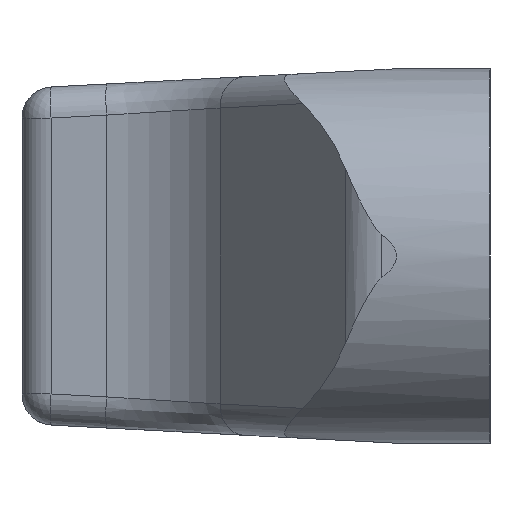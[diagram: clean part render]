
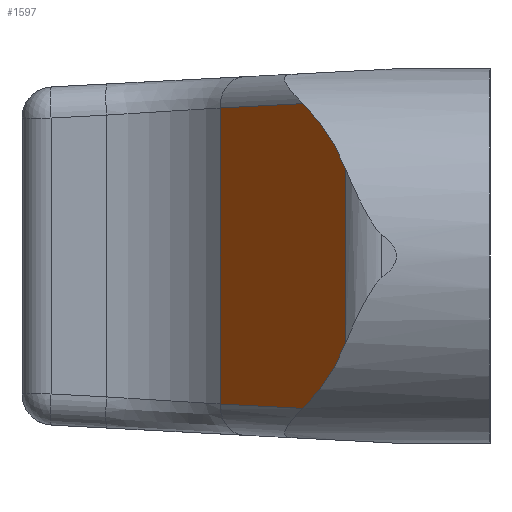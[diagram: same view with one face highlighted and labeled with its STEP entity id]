
A CAD part, left-side view. The second image highlights one B-rep face of the part: STEP entity #1597.
In plain terms, the highlighted planar face has unit normal (-0.602, 0.798, 0).
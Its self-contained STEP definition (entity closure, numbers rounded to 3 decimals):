
#98 = LINE ( 'NONE', #2179, #3905 ) ;
#192 = DIRECTION ( 'NONE',  ( 0.798, 0.602, 0.032 ) ) ;
#208 = VERTEX_POINT ( 'NONE', #7093 ) ;
#264 = CARTESIAN_POINT ( 'NONE',  ( 4.33, 4.373, -4.811 ) ) ;
#471 = DIRECTION ( 'NONE',  ( 0., 0., -1. ) ) ;
#495 = CARTESIAN_POINT ( 'NONE',  ( 1.742, 2.421, 4.332 ) ) ;
#631 = LINE ( 'NONE', #264, #6509 ) ;
#904 = ORIENTED_EDGE ( 'NONE', *, *, #8767, .T. ) ;
#944 = CARTESIAN_POINT ( 'NONE',  ( 2.514, 3.003, 4.883 ) ) ;
#973 = ORIENTED_EDGE ( 'NONE', *, *, #4878, .F. ) ;
#1344 = VECTOR ( 'NONE', #471, 1000. ) ;
#1450 = ORIENTED_EDGE ( 'NONE', *, *, #7183, .F. ) ;
#1597 = ADVANCED_FACE ( 'NONE', ( #4008 ), #7136, .F. ) ;
#1852 = CARTESIAN_POINT ( 'NONE',  ( 6.025, 5.651, 4.744 ) ) ;
#1977 = EDGE_CURVE ( 'NONE', #208, #8592, #631, .T. ) ;
#2007 = CARTESIAN_POINT ( 'NONE',  ( 1.119, 1.952, 3.616 ) ) ;
#2013 = CARTESIAN_POINT ( 'NONE',  ( 6.025, 5.651, 6. ) ) ;
#2069 = CARTESIAN_POINT ( 'NONE',  ( 6.025, 5.651, 6. ) ) ;
#2179 = CARTESIAN_POINT ( 'NONE',  ( 0.68, 1.621, 6. ) ) ;
#2248 = DIRECTION ( 'NONE',  ( 0.602, -0.798, 0. ) ) ;
#2294 = AXIS2_PLACEMENT_3D ( 'NONE', #2069, #2248, #2706 ) ;
#2302 =( BOUNDED_CURVE ( )  B_SPLINE_CURVE ( 3, ( #4259, #6634, #2796, #8149 ),
 .UNSPECIFIED., .F., .T. ) 
 B_SPLINE_CURVE_WITH_KNOTS ( ( 4, 4 ),
 ( 0.481, 0.951 ),
 .UNSPECIFIED. ) 
 CURVE ( )  GEOMETRIC_REPRESENTATION_ITEM ( )  RATIONAL_B_SPLINE_CURVE ( ( 1., 0.982, 0.982, 1. ) ) 
 REPRESENTATION_ITEM ( '' )  );
#2395 = CARTESIAN_POINT ( 'NONE',  ( 6.025, 5.651, -4.744 ) ) ;
#2706 = DIRECTION ( 'NONE',  ( 0.798, 0.602, 0. ) ) ;
#2796 = CARTESIAN_POINT ( 'NONE',  ( 1.742, 2.421, -4.332 ) ) ;
#3288 = ORIENTED_EDGE ( 'NONE', *, *, #1977, .F. ) ;
#3749 = EDGE_CURVE ( 'NONE', #9347, #208, #2302, .T. ) ;
#3786 = ORIENTED_EDGE ( 'NONE', *, *, #7307, .F. ) ;
#3905 = VECTOR ( 'NONE', #9081, 1000. ) ;
#4008 = FACE_OUTER_BOUND ( 'NONE', #7831, .T. ) ;
#4259 = CARTESIAN_POINT ( 'NONE',  ( 0.68, 1.621, -2.775 ) ) ;
#4741 = VERTEX_POINT ( 'NONE', #9706 ) ;
#4878 = EDGE_CURVE ( 'NONE', #6802, #9483, #5879, .T. ) ;
#5405 = CARTESIAN_POINT ( 'NONE',  ( 0.68, 1.621, -2.775 ) ) ;
#5859 = CARTESIAN_POINT ( 'NONE',  ( 2.514, 3.003, 4.883 ) ) ;
#5879 = LINE ( 'NONE', #6055, #7895 ) ;
#6055 = CARTESIAN_POINT ( 'NONE',  ( 6.001, 5.633, 4.745 ) ) ;
#6084 = DIRECTION ( 'NONE',  ( -0.798, -0.602, 0.032 ) ) ;
#6308 = ORIENTED_EDGE ( 'NONE', *, *, #3749, .F. ) ;
#6509 = VECTOR ( 'NONE', #192, 1000. ) ;
#6570 =( BOUNDED_CURVE ( )  B_SPLINE_CURVE ( 3, ( #5859, #495, #2007, #7369 ),
 .UNSPECIFIED., .F., .F. ) 
 B_SPLINE_CURVE_WITH_KNOTS ( ( 4, 4 ),
 ( 5.332, 5.802 ),
 .UNSPECIFIED. ) 
 CURVE ( )  GEOMETRIC_REPRESENTATION_ITEM ( )  RATIONAL_B_SPLINE_CURVE ( ( 1., 0.982, 0.982, 1. ) ) 
 REPRESENTATION_ITEM ( '' )  );
#6634 = CARTESIAN_POINT ( 'NONE',  ( 1.119, 1.952, -3.616 ) ) ;
#6802 = VERTEX_POINT ( 'NONE', #1852 ) ;
#7093 = CARTESIAN_POINT ( 'NONE',  ( 2.514, 3.003, -4.883 ) ) ;
#7136 = PLANE ( 'NONE',  #2294 ) ;
#7183 = EDGE_CURVE ( 'NONE', #9483, #4741, #6570, .T. ) ;
#7200 = LINE ( 'NONE', #2013, #1344 ) ;
#7307 = EDGE_CURVE ( 'NONE', #4741, #9347, #98, .T. ) ;
#7369 = CARTESIAN_POINT ( 'NONE',  ( 0.68, 1.621, 2.775 ) ) ;
#7831 = EDGE_LOOP ( 'NONE', ( #1450, #973, #904, #3288, #6308, #3786 ) ) ;
#7895 = VECTOR ( 'NONE', #6084, 1000. ) ;
#8149 = CARTESIAN_POINT ( 'NONE',  ( 2.514, 3.003, -4.883 ) ) ;
#8592 = VERTEX_POINT ( 'NONE', #2395 ) ;
#8767 = EDGE_CURVE ( 'NONE', #6802, #8592, #7200, .T. ) ;
#9081 = DIRECTION ( 'NONE',  ( 0., 0., -1. ) ) ;
#9347 = VERTEX_POINT ( 'NONE', #5405 ) ;
#9483 = VERTEX_POINT ( 'NONE', #944 ) ;
#9706 = CARTESIAN_POINT ( 'NONE',  ( 0.68, 1.621, 2.775 ) ) ;
